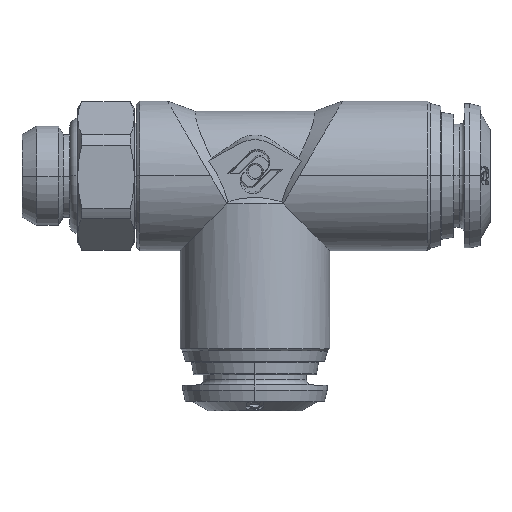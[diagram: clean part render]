
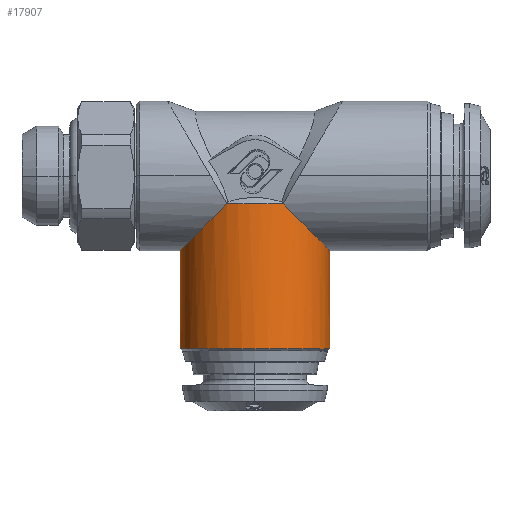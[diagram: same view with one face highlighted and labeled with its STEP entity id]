
A CAD part, top view. The second image highlights one B-rep face of the part: STEP entity #17907.
In plain terms, the highlighted cylindrical face has radius 7.25 mm (diameter 14.5 mm), a partial arc.
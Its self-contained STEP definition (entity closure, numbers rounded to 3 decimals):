
#541 = CARTESIAN_POINT ( 'NONE',  ( 4.209, 4.166, 0. ) ) ;
#545 = CARTESIAN_POINT ( 'NONE',  ( 4.209, -3.084, 3.042 ) ) ;
#546 = DIRECTION ( 'NONE',  ( 0., 1., 0. ) ) ;
#547 = CARTESIAN_POINT ( 'NONE',  ( 4.209, -3.084, 0. ) ) ;
#549 = CARTESIAN_POINT ( 'NONE',  ( 2.511, -1.386, 5.567 ) ) ;
#550 = CARTESIAN_POINT ( 'NONE',  ( -0.306, 1.431, 6.714 ) ) ;
#551 = CARTESIAN_POINT ( 'NONE',  ( -5.776, 1.431, 6.714 ) ) ;
#552 = CARTESIAN_POINT ( 'NONE',  ( -8.594, -1.386, 5.567 ) ) ;
#553 = CARTESIAN_POINT ( 'NONE',  ( -3.041, 1.431, 0. ) ) ;
#554 = DIRECTION ( 'NONE',  ( 0., -1., 0. ) ) ;
#555 = DIRECTION ( 'NONE',  ( 1., 0., 0. ) ) ;
#557 = CARTESIAN_POINT ( 'NONE',  ( -10.291, -3.084, 3.042 ) ) ;
#558 = CARTESIAN_POINT ( 'NONE',  ( -10.291, -3.084, 0. ) ) ;
#559 = CARTESIAN_POINT ( 'NONE',  ( -10.291, 4.166, 0. ) ) ;
#561 = DIRECTION ( 'NONE',  ( 0., 1., 0. ) ) ;
#1566 = LINE ( 'NONE', #541, #1569 ) ;
#1568 = CIRCLE ( 'NONE', #17412, 7.25 ) ;
#1569 = VECTOR ( 'NONE', #546, 1000. ) ;
#1571 = LINE ( 'NONE', #559, #1573 ) ;
#1573 = VECTOR ( 'NONE', #561, 1000. ) ;
#2769 =( BOUNDED_CURVE ( )  B_SPLINE_CURVE ( 3, ( #547, #545, #549, #550 ),
 .UNSPECIFIED., .F., .F. ) 
 B_SPLINE_CURVE_WITH_KNOTS ( ( 4, 4 ),
 ( 3.142, 4.326 ),
 .UNSPECIFIED. ) 
 CURVE ( )  GEOMETRIC_REPRESENTATION_ITEM ( )  RATIONAL_B_SPLINE_CURVE ( ( 1., 0.887, 0.887, 1. ) ) 
 REPRESENTATION_ITEM ( '' )  );
#2770 =( BOUNDED_CURVE ( )  B_SPLINE_CURVE ( 3, ( #551, #552, #557, #558 ),
 .UNSPECIFIED., .F., .T. ) 
 B_SPLINE_CURVE_WITH_KNOTS ( ( 4, 4 ),
 ( 5.099, 6.283 ),
 .UNSPECIFIED. ) 
 CURVE ( )  GEOMETRIC_REPRESENTATION_ITEM ( )  RATIONAL_B_SPLINE_CURVE ( ( 1., 0.887, 0.887, 1. ) ) 
 REPRESENTATION_ITEM ( '' )  );
#5184 = VERTEX_POINT ( 'NONE', #9664 ) ;
#5185 = VERTEX_POINT ( 'NONE', #9665 ) ;
#5190 = VERTEX_POINT ( 'NONE', #9670 ) ;
#5205 = VERTEX_POINT ( 'NONE', #9685 ) ;
#5206 = VERTEX_POINT ( 'NONE', #9686 ) ;
#7301 = CARTESIAN_POINT ( 'NONE',  ( -0.306, 1.431, 6.714 ) ) ;
#7608 = FACE_OUTER_BOUND ( 'NONE', #15955, .T. ) ;
#7613 = CYLINDRICAL_SURFACE ( 'NONE', #22626, 7.25 ) ;
#7917 = CIRCLE ( 'NONE', #20500, 7.25 ) ;
#9664 = CARTESIAN_POINT ( 'NONE',  ( -10.291, -3.084, 0. ) ) ;
#9665 = CARTESIAN_POINT ( 'NONE',  ( -5.776, 1.431, 6.714 ) ) ;
#9670 = CARTESIAN_POINT ( 'NONE',  ( 4.209, -3.084, 0. ) ) ;
#9685 = CARTESIAN_POINT ( 'NONE',  ( 4.209, -12.602, 0. ) ) ;
#9686 = CARTESIAN_POINT ( 'NONE',  ( -10.291, -12.602, 0. ) ) ;
#15955 = EDGE_LOOP ( 'NONE', ( #22912, #22913, #22914, #22915, #22916, #22917 ) ) ;
#16923 = EDGE_CURVE ( 'NONE', #5205, #5190, #1566, .T. ) ;
#16924 = EDGE_CURVE ( 'NONE', #5190, #22820, #2769, .T. ) ;
#16925 = EDGE_CURVE ( 'NONE', #22820, #5185, #1568, .T. ) ;
#16926 = EDGE_CURVE ( 'NONE', #5185, #5184, #2770, .T. ) ;
#16927 = EDGE_CURVE ( 'NONE', #5206, #5184, #1571, .T. ) ;
#17412 = AXIS2_PLACEMENT_3D ( 'NONE', #553, #554, #555 ) ;
#17907 = ADVANCED_FACE ( 'NONE', ( #7608 ), #7613, .T. ) ;
#19630 = DIRECTION ( 'NONE',  ( -1., 0., 0. ) ) ;
#19632 = CARTESIAN_POINT ( 'NONE',  ( -3.041, 4.166, 0. ) ) ;
#19634 = DIRECTION ( 'NONE',  ( 0., 1., 0. ) ) ;
#20500 = AXIS2_PLACEMENT_3D ( 'NONE', #21073, #21074, #21075 ) ;
#21073 = CARTESIAN_POINT ( 'NONE',  ( -3.041, -12.602, 0. ) ) ;
#21074 = DIRECTION ( 'NONE',  ( 0., 1., 0. ) ) ;
#21075 = DIRECTION ( 'NONE',  ( -1., 0., 0. ) ) ;
#22626 = AXIS2_PLACEMENT_3D ( 'NONE', #19632, #19634, #19630 ) ;
#22820 = VERTEX_POINT ( 'NONE', #7301 ) ;
#22912 = ORIENTED_EDGE ( 'NONE', *, *, #23769, .T. ) ;
#22913 = ORIENTED_EDGE ( 'NONE', *, *, #16923, .T. ) ;
#22914 = ORIENTED_EDGE ( 'NONE', *, *, #16924, .T. ) ;
#22915 = ORIENTED_EDGE ( 'NONE', *, *, #16925, .T. ) ;
#22916 = ORIENTED_EDGE ( 'NONE', *, *, #16926, .T. ) ;
#22917 = ORIENTED_EDGE ( 'NONE', *, *, #16927, .F. ) ;
#23769 = EDGE_CURVE ( 'NONE', #5206, #5205, #7917, .T. ) ;
